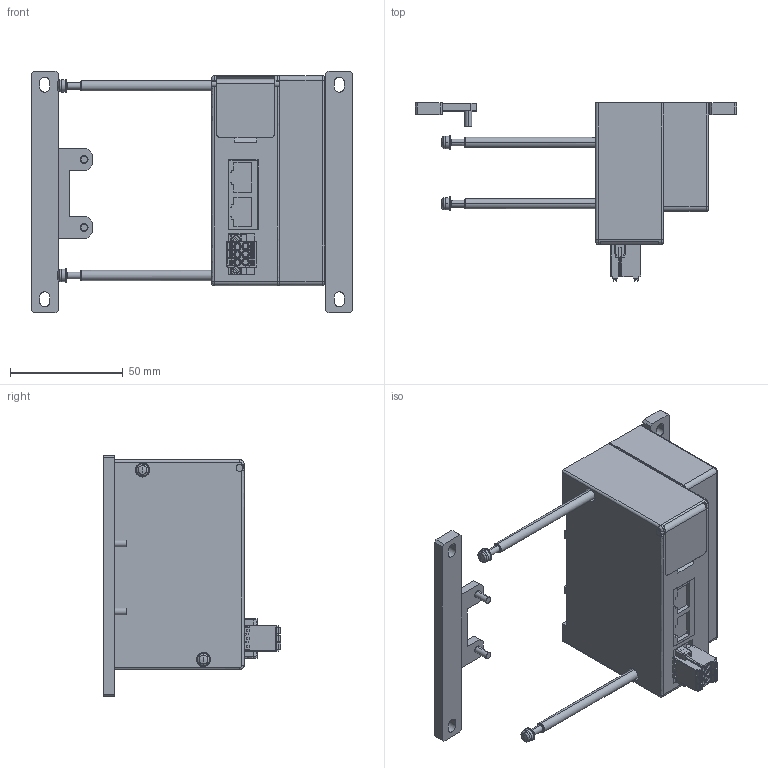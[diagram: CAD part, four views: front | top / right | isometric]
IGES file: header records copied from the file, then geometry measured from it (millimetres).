
Start section: ------------------------------------------------------------------------
Bounding box: 142.5 x 78.8 x 107 mm (x, y, z)
Volume: 270666.8 mm3; surface area: 43090 mm2
Topology: 3 solids, 3 shells, 825 faces, 2127 edges, 1359 vertices
Faces by surface type: bspline 825
